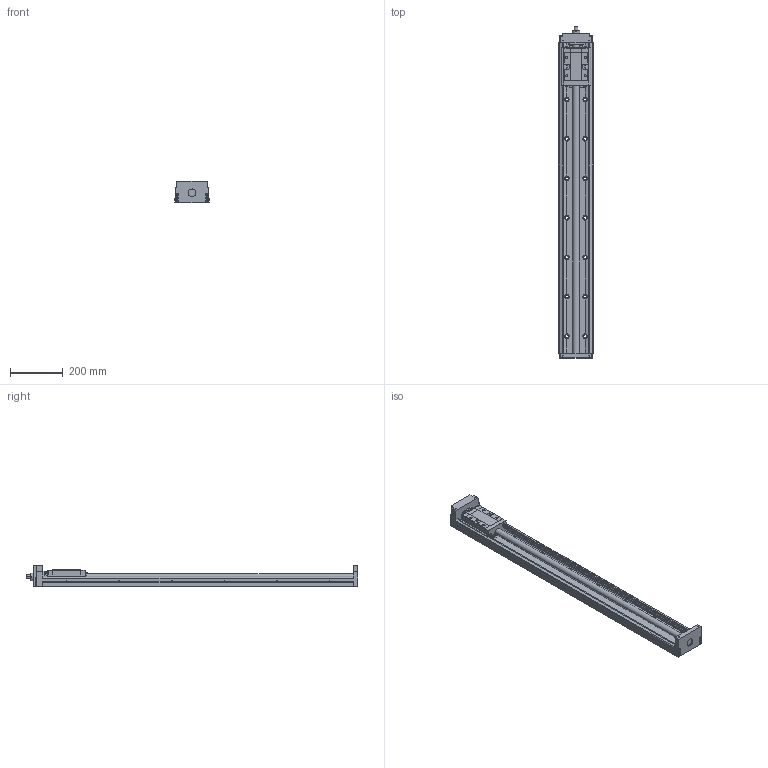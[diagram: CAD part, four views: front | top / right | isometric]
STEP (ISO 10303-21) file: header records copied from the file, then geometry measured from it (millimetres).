
FILE_DESCRIPTION(('no description'),'unknown implementation level');
FILE_NAME('KK13025P1180A1H0000_FILE_56.stp',' ',('HIWIN GmbH'),('CADClick - KiM GmbH - www.kimweb.de'),'unknown preprocess','ACIS','unknown authorization');
FILE_SCHEMA(('automotive_design'));
Length unit declared in the file: millimetre
Products named in the file (2): KK130_FILE; KK13025P1180A1H0000_FILE
Bounding box: 130 x 1262 x 83 mm (x, y, z)
Volume: 4800857.9 mm3; surface area: 684085.6 mm2
Topology: 2 solids, 13 shells, 762 faces, 1874 edges, 1215 vertices
Faces by surface type: plane 464, cylinder 256, torus 38, cone 2, sphere 2
Entity records: 44246 total; most frequent: DIRECTION 4056, CARTESIAN_POINT 3959, STYLED_ITEM 3851, PRESENTATION_STYLE_ASSIGNMENT 3851, COLOUR_RGB 3851, ORIENTED_EDGE 3744, EDGE_CURVE 1872, CURVE_STYLE 1872
